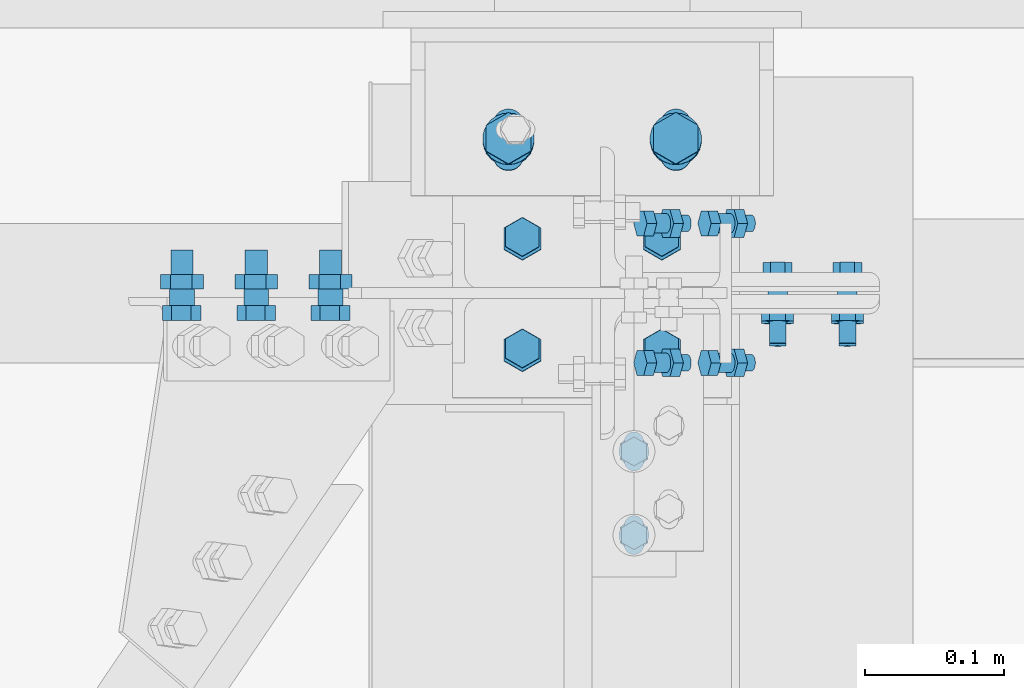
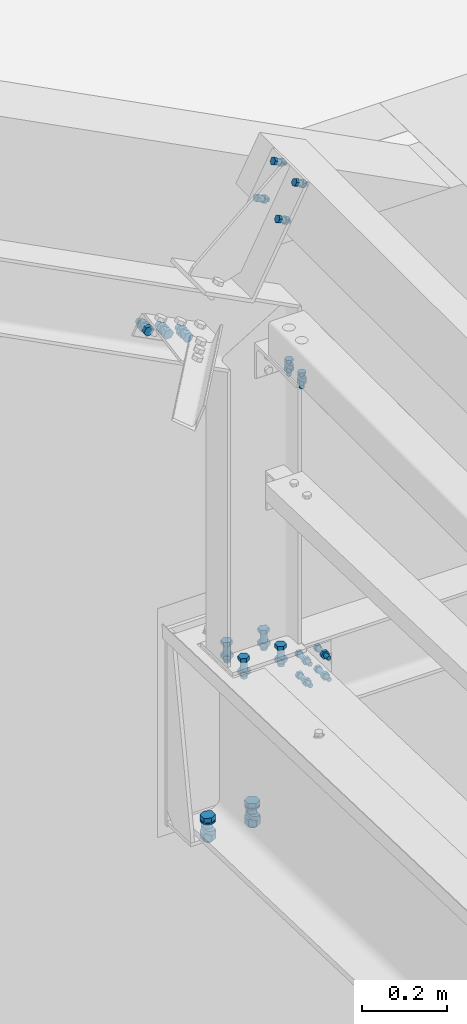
# One storey, part 178 of 362: 6 mechanical fasteners.
"""IFC2X3 building model written with IfcOpenShell, lengths in millimetres."""

import ifcopenshell
import ifcopenshell.guid

model = None  # the IFC model being written
_history = None  # IfcOwnerHistory: only IFC2X3 demands one
_inside = {}  # id of a spatial element -> (the spatial element, [elements in it])
_under = {}  # id of a project, library or spatial element -> (it, [spatial elements below it])
_declared = {}  # id of a project -> (the project, [libraries it declares])
_typed = {}  # id of a type object -> (the type object, [elements of that type])
_made_of = {}  # id of a material, layer set ... -> (it, [elements and type objects made of it])


def new_model(schema):
    """Start an empty IFC model of exactly this schema.

    Asked for "IFC4X3", IfcOpenShell would pick the latest addendum, in which some entities
    have other attributes; the version numbers below select the first issue.
    IFC2X3 requires an IfcOwnerHistory on every rooted entity: one is made here for all.
    """
    global model, _history
    if schema == "IFC4X3":
        model = ifcopenshell.file(schema_version=(4, 3, 0, 0))
    else:
        model = ifcopenshell.file(schema=schema)
    _inside.clear()
    _under.clear()
    _declared.clear()
    _typed.clear()
    _made_of.clear()
    _history = None
    if model.schema == "IFC2X3":
        org = make("IfcOrganization", Name="unknown")
        user = make(
            "IfcPersonAndOrganization",
            ThePerson=make("IfcPerson", FamilyName="unknown"),
            TheOrganization=org,
        )
        app = make(
            "IfcApplication",
            ApplicationDeveloper=org,
            Version="unknown",
            ApplicationFullName="unknown",
            ApplicationIdentifier="unknown",
        )
        _history = make(
            "IfcOwnerHistory",
            OwningUser=user,
            OwningApplication=app,
            ChangeAction="ADDED",
            CreationDate=0,
        )
    return model


def make(cls, **values):
    """One entity of the class cls with the attributes given. An attribute that is None is left unset."""
    return model.create_entity(
        cls, **{name: value for name, value in values.items() if value is not None}
    )


def rooted(cls, **values):
    """An entity with a GlobalId (a new one), such as an element, a storey or a relation."""
    return make(cls, GlobalId=ifcopenshell.guid.new(), OwnerHistory=_history, **values)


def si_unit(unit_type, name, prefix=None):
    """IfcSIUnit, for example si_unit("LENGTHUNIT", "METRE", prefix="MILLI")."""
    return make("IfcSIUnit", UnitType=unit_type, Prefix=prefix, Name=name)


def assignment(units):
    """IfcUnitAssignment: the units of a project."""
    return None if units is None else make("IfcUnitAssignment", Units=units)


def point(xyz):
    """IfcCartesianPoint."""
    return None if xyz is None else make("IfcCartesianPoint", Coordinates=xyz)


def direction(xyz):
    """IfcDirection."""
    return None if xyz is None else make("IfcDirection", DirectionRatios=xyz)


def frame(location, z_axis=None, x_axis=None):
    """IfcAxis2Placement3D, a coordinate frame: its origin and axes. An axis left out is left unset."""
    return make(
        "IfcAxis2Placement3D",
        Location=point(location),
        Axis=direction(z_axis),
        RefDirection=direction(x_axis),
    )


def frame_2d(location, x_axis=None):
    """IfcAxis2Placement2D, a coordinate frame in the plane: its origin and x axis."""
    return make(
        "IfcAxis2Placement2D", Location=point(location), RefDirection=direction(x_axis)
    )


def origin_with_axes():
    """The frame at (0, 0, 0) with the z axis (0, 0, 1) and the x axis (1, 0, 0) written out."""
    return frame((0.0, 0.0, 0.0), z_axis=(0.0, 0.0, 1.0), x_axis=(1.0, 0.0, 0.0))


def origin_2d_with_axis():
    """The frame at (0, 0) in the plane with the x axis (1, 0) written out."""
    return frame_2d((0.0, 0.0), x_axis=(1.0, 0.0))


def place(relative_to, where):
    """IfcLocalPlacement: puts the frame where relative to a parent placement (None: the world)."""
    return make(
        "IfcLocalPlacement", PlacementRelTo=relative_to, RelativePlacement=where
    )


def context(
    kind, dimensions, precision=None, world=None, true_north=None, identifier=None
):
    """IfcGeometricRepresentationContext, for example the 3D "Model" context."""
    return make(
        "IfcGeometricRepresentationContext",
        ContextIdentifier=identifier,
        ContextType=kind,
        CoordinateSpaceDimension=dimensions,
        Precision=precision,
        WorldCoordinateSystem=world,
        TrueNorth=true_north,
    )


def subcontext(parent, identifier, kind, view, scale=None):
    """IfcGeometricRepresentationSubContext, for example "Body" below "Model"."""
    return make(
        "IfcGeometricRepresentationSubContext",
        ContextIdentifier=identifier,
        ContextType=kind,
        ParentContext=parent,
        TargetScale=scale,
        TargetView=view,
    )


def project(units=None, contexts=None):
    """IfcProject with its units and contexts."""
    return rooted(
        "IfcProject",
        Name="project",
        RepresentationContexts=contexts,
        UnitsInContext=assignment(units),
    )


def spatial(cls, under=None, at=None, **own):
    """A site, building, storey or space (cls), placed at a placement, below another one or the project."""
    s = rooted(cls, ObjectPlacement=at, **own)
    if under is not None:
        _under.setdefault(under.id(), (under, []))[1].append(s)
    return s


def polyline(points):
    """IfcPolyline through the points."""
    return make("IfcPolyline", Points=[point(p) for p in points])


def circle_curve(where, radius):
    """IfcCircle in the frame where."""
    return make("IfcCircle", Position=where, Radius=radius)


def parameter(value):
    """IfcParameterValue: where a trimmed curve begins or ends, as a parameter of its basis curve."""
    return model.create_entity("IfcParameterValue", value)


def trimmed(basis, trim1, trim2, sense, master):
    """IfcTrimmedCurve: the piece of a basis curve between two trims."""
    return make(
        "IfcTrimmedCurve",
        BasisCurve=basis,
        Trim1=trim1,
        Trim2=trim2,
        SenseAgreement=sense,
        MasterRepresentation=master,
    )


def segment(curve, same_sense, transition):
    """IfcCompositeCurveSegment."""
    return make(
        "IfcCompositeCurveSegment",
        Transition=transition,
        SameSense=same_sense,
        ParentCurve=curve,
    )


def composite_curve(segments, self_intersect=None):
    """IfcCompositeCurve: segments joined end to end."""
    return make("IfcCompositeCurve", Segments=segments, SelfIntersect=self_intersect)


def profile(cls, at=None, kind="AREA", **sizes):
    """A parametric profile (cls). Its sizes go by their IFC names, for example OverallWidth=200.0."""
    return make(cls, ProfileType=kind, Position=at, **sizes)


def circle(**sizes):
    """IfcCircleProfileDef."""
    return profile("IfcCircleProfileDef", **sizes)


def outline(outer, holes=None, kind="AREA"):
    """IfcArbitraryClosedProfileDef: a profile drawn as a closed curve; with holes, ...WithVoids."""
    if holes is None:
        return make("IfcArbitraryClosedProfileDef", ProfileType=kind, OuterCurve=outer)
    return make(
        "IfcArbitraryProfileDefWithVoids",
        ProfileType=kind,
        OuterCurve=outer,
        InnerCurves=holes,
    )


def extrude(swept, where, along, depth):
    """IfcExtrudedAreaSolid: the profile swept, set in the frame where, extruded along a direction by depth."""
    return make(
        "IfcExtrudedAreaSolid",
        SweptArea=swept,
        Position=where,
        ExtrudedDirection=direction(along),
        Depth=depth,
    )


def shape(context_of_items, identifier, shape_type, items):
    """IfcShapeRepresentation: the items that make up one representation, for example the "Body"."""
    return make(
        "IfcShapeRepresentation",
        ContextOfItems=context_of_items,
        RepresentationIdentifier=identifier,
        RepresentationType=shape_type,
        Items=items,
    )


def source(mapping_origin, context_of_items, identifier, shape_type, items):
    """IfcRepresentationMap: a shape defined once, which mapped items show again and again."""
    return make(
        "IfcRepresentationMap",
        MappingOrigin=mapping_origin,
        MappedRepresentation=shape(context_of_items, identifier, shape_type, items),
    )


def transform(
    local_origin,
    x_axis=None,
    y_axis=None,
    z_axis=None,
    scale=None,
    scale2=None,
    scale3=None,
    uniform=True,
):
    """IfcCartesianTransformationOperator3D, or its non-uniform kind. x_axis, y_axis, z_axis: its Axis1, 2, 3."""
    if uniform:
        return make(
            "IfcCartesianTransformationOperator3D",
            Axis1=direction(x_axis),
            Axis2=direction(y_axis),
            LocalOrigin=point(local_origin),
            Scale=scale,
            Axis3=direction(z_axis),
        )
    return make(
        "IfcCartesianTransformationOperator3DnonUniform",
        Axis1=direction(x_axis),
        Axis2=direction(y_axis),
        LocalOrigin=point(local_origin),
        Scale=scale,
        Axis3=direction(z_axis),
        Scale2=scale2,
        Scale3=scale3,
    )


def mapped(mapping_source, mapping_target):
    """IfcMappedItem: shows the shape of a source again, moved by a transform."""
    return make(
        "IfcMappedItem", MappingSource=mapping_source, MappingTarget=mapping_target
    )


def material(Name=None, Category=None):
    """IfcMaterial."""
    return make("IfcMaterial", Name=Name, Category=Category)


def made_of(thing, what):
    """Note that an element or type object is made of a material, layer set ...; save() writes the relation."""
    if what is not None:
        _made_of.setdefault(what.id(), (what, []))[1].append(thing)
    return thing


def type_object(cls, material=None, **own):
    """A type object (cls), such as IfcWallType, which elements share."""
    return made_of(rooted(cls, **own), material)


def element(
    cls,
    number,
    at=None,
    inside=None,
    cuts=None,
    type_object=None,
    material=None,
    context=None,
    identifier="Body",
    shape_type=None,
    held_by="IfcProductDefinitionShape",
    body=None,
    shapes=None,
    **own,
):
    """One element of the class cls, such as IfcWall. Its Tag is "e" and its number.

    at: its placement. inside: the storey or other place that contains it. cuts: it is an
    opening in that element (IfcRelVoidsElement). A single representation is given by context,
    identifier, shape_type and body (its items); several are given by shapes. held_by: the class
    of the entity that holds the representations. save() writes the other relations.
    """
    e = rooted(cls, Tag="e%d" % number, ObjectPlacement=at, **own)
    if body is not None:
        shapes = [shape(context, identifier, shape_type, body)]
    if shapes is not None:
        e.Representation = make(held_by, Representations=shapes)
    if inside is not None:
        _inside.setdefault(inside.id(), (inside, []))[1].append(e)
    if cuts is not None:
        rooted(
            "IfcRelVoidsElement", RelatingBuildingElement=cuts, RelatedOpeningElement=e
        )
    if type_object is not None:
        _typed.setdefault(type_object.id(), (type_object, []))[1].append(e)
    return made_of(e, material)


def aggregate(whole, parts):
    """IfcRelAggregates: a whole, such as a stair, and the parts it consists of."""
    return rooted("IfcRelAggregates", RelatingObject=whole, RelatedObjects=parts)


def save(model, path):
    """Write the relations noted so far, then the file.

    IfcRelAggregates (storeys below a building ...), IfcRelContainedInSpatialStructure (elements
    in a storey), IfcRelDefinesByType, IfcRelAssociatesMaterial and IfcRelDeclares: one each for
    every whole, place, type object, material and project.
    """
    for whole, parts in _under.values():
        aggregate(whole, parts)
    for where, things in _inside.values():
        rooted(
            "IfcRelContainedInSpatialStructure",
            RelatedElements=things,
            RelatingStructure=where,
        )
    for kind, things in _typed.values():
        rooted("IfcRelDefinesByType", RelatedObjects=things, RelatingType=kind)
    for what, things in _made_of.values():
        rooted("IfcRelAssociatesMaterial", RelatedObjects=things, RelatingMaterial=what)
    for by, libraries in _declared.values():
        rooted("IfcRelDeclares", RelatingContext=by, RelatedDefinitions=libraries)
    model.write(path)


model = new_model("IFC2X3")

# Units and contexts
model_context = context("Model", 3, precision=1e-05, world=origin_with_axes())
body_context = subcontext(model_context, "Body", "Model", "MODEL_VIEW")
ifc_project = project(units=[si_unit("LENGTHUNIT", "METRE", prefix="MILLI"), si_unit("AREAUNIT", "SQUARE_METRE"), si_unit("VOLUMEUNIT", "CUBIC_METRE"), si_unit("MASSUNIT", "GRAM", prefix="KILO"), si_unit("TIMEUNIT", "SECOND"), si_unit("PLANEANGLEUNIT", "RADIAN"), si_unit("SOLIDANGLEUNIT", "STERADIAN"), si_unit("THERMODYNAMICTEMPERATUREUNIT", "DEGREE_CELSIUS"), si_unit("LUMINOUSINTENSITYUNIT", "LUMEN")], contexts=[model_context])

# Site, building, storey
site_placement = place(None, origin_with_axes())
site = spatial("IfcSite", under=ifc_project, at=site_placement, Name="Undefined", CompositionType="ELEMENT")
building_placement = place(site_placement, origin_with_axes())
building = spatial("IfcBuilding", under=site, at=building_placement, Name="Undefined", CompositionType="ELEMENT")
storey_placement = place(building_placement, origin_with_axes())
storey = spatial("IfcBuildingStorey", under=building, at=storey_placement, Name="Undefined", CompositionType="ELEMENT", Elevation=0.0)

# Mechanical fasteners
ifc_material_1 = material(Name="8.8-SB-ZINGUE")
mechanical_fastener_type = type_object("IfcMechanicalFastenerType", Name="Bolt assembly")
shared_shape_1 = source(origin_with_axes(), body_context, "Body", "SweptSolid", [
    extrude(circle(Radius=7.0, at=origin_2d_with_axis()), frame((0.0, -0.10007666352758, 0.0), z_axis=(0.0, 1.0, 0.0), x_axis=(1.0, 0.0, 0.0)), (0.0, 0.0, 1.0), 3.1),
    extrude(circle(Radius=7.0, at=origin_2d_with_axis()), frame((0.0, -9.9, 0.0), z_axis=(0.0, 1.0, 0.0), x_axis=(1.0, 0.0, 0.0)), (0.0, 0.0, 1.0), 10.0),
    extrude(outline(polyline([(10.39230484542, 0.0), (5.19615242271, 9.00000000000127), (-5.19615242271, 9.00000000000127), (-10.39230484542, 0.0), (-5.19615242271, -9.00000000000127), (5.19615242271, -9.00000000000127), (10.39230484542, 0.0)])), frame((0.0, -17.92, 0.0), z_axis=(0.0, 1.0, 0.0), x_axis=(1.0, 0.0, 0.0)), (0.0, 0.0, 1.0), 7.92),
    extrude(circle(Radius=6.0, at=origin_2d_with_axis()), frame((0.0, -10.0000010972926, 0.0), z_axis=(0.0, 1.0, 0.0), x_axis=(1.0, 0.0, 0.0)), (0.0, 0.0, 1.0), 30.0),
    extrude(outline(polyline([(11.5008173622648, 0.0), (5.7504086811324, 9.96000000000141), (-5.7504086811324, 9.96000000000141), (-11.5008173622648, 0.0), (-5.7504086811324, -9.96000000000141), (5.7504086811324, -9.96000000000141), (11.5008173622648, 0.0)])), frame((0.0, 2.99993177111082, 0.0), z_axis=(0.0, 1.0, 0.0), x_axis=(1.0, 0.0, 0.0)), (0.0, 0.0, 1.0), 7.92),
])
mechanical_fastener_1_placement = place(storey_placement, frame((28930.4869602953, 15200.0000596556, 8812.17853882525), z_axis=(0.0, 1.0, 0.0), x_axis=(0.460093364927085, 0.0, 0.887870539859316)))
element("IfcMechanicalFastener", 1, at=mechanical_fastener_1_placement, inside=storey, type_object=mechanical_fastener_type, material=ifc_material_1, Name="Bolt assembly", NominalDiameter=12.0, NominalLength=30.0, context=body_context, shape_type="MappedRepresentation", body=[
    mapped(shared_shape_1, transform((0.0, 0.0, -50.0))),
    mapped(shared_shape_1, transform((100.0, 0.0, -50.0))),
    mapped(shared_shape_1, transform((0.0, 0.0, 50.0))),
    mapped(shared_shape_1, transform((100.0, 0.0, 50.0))),
])
ifc_material_2 = material(Name="#_SB-8.8-ZINGUE")
shared_shape_2 = source(origin_with_axes(), body_context, "Body", "SweptSolid", [
    extrude(circle(Radius=9.0, at=origin_2d_with_axis()), frame((0.0, -2.90024280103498, 0.0), z_axis=(0.0, 1.0, 0.0), x_axis=(1.0, 0.0, 0.0)), (0.0, 0.0, 1.0), 5.7),
    extrude(circle(Radius=9.0, at=origin_2d_with_axis()), frame((0.0, -8.89990143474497, 0.0), z_axis=(0.0, 1.0, 0.0), x_axis=(1.0, 0.0, 0.0)), (0.0, 0.0, 1.0), 6.0),
    extrude(outline(polyline([(13.85640646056, 0.0), (6.92820323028, 12.0000000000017), (-6.92820323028, 12.0000000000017), (-13.85640646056, 0.0), (-6.92820323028, -12.0000000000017), (6.92820323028, -12.0000000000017), (13.85640646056, 0.0)])), frame((0.0, -19.559901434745, 0.0), z_axis=(0.0, 1.0, 0.0), x_axis=(1.0, 0.0, 0.0)), (0.0, 0.0, 1.0), 10.56),
    extrude(circle(Radius=8.0, at=origin_2d_with_axis()), frame((0.0, -8.99990143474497, 0.0), z_axis=(0.0, 1.0, 0.0), x_axis=(1.0, 0.0, 0.0)), (0.0, 0.0, 1.0), 40.0),
    extrude(outline(polyline([(15.3344231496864, 0.0), (7.6672115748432, 13.2800000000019), (-7.6672115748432, 13.2800000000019), (-15.3344231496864, 0.0), (-7.6672115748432, -13.2800000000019), (7.6672115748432, -13.2800000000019), (15.3344231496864, 0.0)])), frame((0.0, 2.79975710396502, 0.0), z_axis=(0.0, 1.0, 0.0), x_axis=(1.0, 0.0, 0.0)), (0.0, 0.0, 1.0), 10.56),
])
mechanical_fastener_2_placement = place(storey_placement, frame((28639.1751648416, 15200.0002428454, 8567.80792295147), z_axis=(-0.887870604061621, -1.29999898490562e-08, 0.460093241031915), x_axis=(0.460093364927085, 0.0, 0.887870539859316)))
element("IfcMechanicalFastener", 2, at=mechanical_fastener_2_placement, inside=storey, type_object=mechanical_fastener_type, material=ifc_material_2, Name="Bolt assembly", NominalDiameter=16.0, NominalLength=40.0, context=body_context, shape_type="MappedRepresentation", body=[
    mapped(shared_shape_2, transform((0.0, 0.0, -60.0))),
    mapped(shared_shape_2, transform((0.0, 0.0, 0.0))),
    mapped(shared_shape_2, transform((0.0, 0.0, 60.0))),
])
shared_shape_3 = source(origin_with_axes(), body_context, "Body", "SweptSolid", [
    extrude(circle(Radius=7.0, at=origin_2d_with_axis()), frame((0.0, -3.89999843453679, 0.0), z_axis=(0.0, 1.0, 0.0), x_axis=(1.0, 0.0, 0.0)), (0.0, 0.0, 1.0), 4.0),
    extrude(outline(composite_curve([segment(polyline([(-7.0, 7.0), (7.0, 7.0)]), True, "CONTINUOUS"), segment(trimmed(circle_curve(frame_2d((7.0, 0.0), x_axis=(0.0, 1.0)), 7.0), [parameter(0.0)], [parameter(3.14159265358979)], False, "PARAMETER"), True, "CONTINUOUS"), segment(polyline([(7.0, -7.0), (-7.0, -7.0)]), True, "CONTINUOUS"), segment(trimmed(circle_curve(frame_2d((-7.0, 0.0), x_axis=(0.0, -1.0)), 7.0), [parameter(0.0)], [parameter(3.14159265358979)], False, "PARAMETER"), True, "DISCONTINUOUS")], self_intersect=False)), frame((0.0, -0.100011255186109, 0.0), z_axis=(0.0, 1.0, 0.0), x_axis=(1.0, 0.0, 0.0)), (0.0, 0.0, 1.0), 10.1),
    extrude(outline(polyline([(10.39230484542, 0.0), (5.19615242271, 9.00000000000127), (-5.19615242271, 9.00000000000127), (-10.39230484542, 0.0), (-5.19615242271, -9.00000000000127), (5.19615242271, -9.00000000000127), (10.39230484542, 0.0)])), frame((0.0, -11.9199984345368, 0.0), z_axis=(0.0, 1.0, 0.0), x_axis=(1.0, 0.0, 0.0)), (0.0, 0.0, 1.0), 7.92),
    extrude(circle(Radius=6.0, at=origin_2d_with_axis()), frame((0.0, -3.99999923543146, 0.0), z_axis=(0.0, 1.0, 0.0), x_axis=(1.0, 0.0, 0.0)), (0.0, 0.0, 1.0), 40.0),
    extrude(circle(Radius=10.8, at=origin_2d_with_axis()), frame((0.0, 10.0000000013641, 0.0), z_axis=(0.0, 1.0, 0.0), x_axis=(1.0, 0.0, 0.0)), (0.0, 0.0, 1.0), 3.96),
    extrude(outline(polyline([(11.5008173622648, 0.0), (5.7504086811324, 9.96000000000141), (-5.7504086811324, 9.96000000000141), (-11.5008173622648, 0.0), (-5.7504086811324, -9.96000000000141), (5.7504086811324, -9.96000000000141), (11.5008173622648, 0.0)])), frame((0.0, 13.96, 0.0), z_axis=(0.0, 1.0, 0.0), x_axis=(1.0, 0.0, 0.0)), (0.0, 0.0, 1.0), 7.92),
])
mechanical_fastener_3_placement = place(storey_placement, frame((28910.0, 15026.5, 8450.0), z_axis=(-1.0, 0.0, 0.0), x_axis=(0.0, 1.0, 0.0)))
element("IfcMechanicalFastener", 3, at=mechanical_fastener_3_placement, inside=storey, type_object=mechanical_fastener_type, material=ifc_material_1, Name="Bolt assembly", NominalDiameter=12.0, NominalLength=40.0, context=body_context, shape_type="MappedRepresentation", body=[
    mapped(shared_shape_3, transform((0.0, 0.0, 0.0))),
    mapped(shared_shape_3, transform((60.0, 0.0, 0.0))),
])
shared_shape_4 = source(origin_with_axes(), body_context, "Body", "SweptSolid", [
    extrude(circle(Radius=9.0, at=origin_2d_with_axis()), frame((0.0, -0.100011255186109, 0.0), z_axis=(0.0, 1.0, 0.0), x_axis=(1.0, 0.0, 0.0)), (0.0, 0.0, 1.0), 17.3),
    extrude(circle(Radius=9.0, at=origin_2d_with_axis()), frame((0.0, -9.9, 0.0), z_axis=(0.0, 1.0, 0.0), x_axis=(1.0, 0.0, 0.0)), (0.0, 0.0, 1.0), 10.0),
    extrude(outline(polyline([(13.85640646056, 0.0), (6.92820323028, 12.0000000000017), (-6.92820323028, 12.0000000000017), (-13.85640646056, 0.0), (-6.92820323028, -12.0000000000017), (6.92820323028, -12.0000000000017), (13.85640646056, 0.0)])), frame((0.0, -20.5600000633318, 0.0), z_axis=(0.0, 1.0, 0.0), x_axis=(1.0, 0.0, 0.0)), (0.0, 0.0, 1.0), 10.56),
    extrude(circle(Radius=8.0, at=origin_2d_with_axis()), frame((0.0, -10.0000010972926, 0.0), z_axis=(0.0, 1.0, 0.0), x_axis=(1.0, 0.0, 0.0)), (0.0, 0.0, 1.0), 50.0),
    extrude(outline(polyline([(15.3344231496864, 0.0), (7.6672115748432, 13.2800000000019), (-7.6672115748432, 13.2800000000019), (-15.3344231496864, 0.0), (-7.6672115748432, -13.2800000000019), (7.6672115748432, -13.2800000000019), (15.3344231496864, 0.0)])), frame((0.0, 17.2000007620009, 0.0), z_axis=(0.0, 1.0, 0.0), x_axis=(1.0, 0.0, 0.0)), (0.0, 0.0, 1.0), 10.56),
])
mechanical_fastener_4_placement = place(storey_placement, frame((28880.0, 15159.7053134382, 7573.58709801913), z_axis=(-1.0, 0.0, 0.0), x_axis=(3.14103090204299e-11, 0.999506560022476, -0.0314107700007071)))
element("IfcMechanicalFastener", 4, at=mechanical_fastener_4_placement, inside=storey, type_object=mechanical_fastener_type, material=ifc_material_1, Name="Bolt assembly", NominalDiameter=16.0, NominalLength=50.0, context=body_context, shape_type="MappedRepresentation", body=[
    mapped(shared_shape_4, transform((0.0, 0.0, -50.0))),
    mapped(shared_shape_4, transform((79.9999999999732, 9.09494701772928e-13, -50.0))),
    mapped(shared_shape_4, transform((0.0, 0.0, 50.0))),
    mapped(shared_shape_4, transform((79.9999999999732, 9.09494701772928e-13, 50.0))),
])
shared_shape_5 = source(origin_with_axes(), body_context, "Body", "SweptSolid", [
    extrude(circle(Radius=7.0, at=origin_2d_with_axis()), frame((0.0, -2.7999999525, 0.0), z_axis=(0.0, 1.0, 0.0), x_axis=(1.0, 0.0, 0.0)), (0.0, 0.0, 1.0), 5.6),
    extrude(circle(Radius=7.0, at=origin_2d_with_axis()), frame((0.0, 2.90038411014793, 0.0), z_axis=(0.0, 1.0, 0.0), x_axis=(1.0, 0.0, 0.0)), (0.0, 0.0, 1.0), 10.1),
    extrude(circle(Radius=7.0, at=origin_2d_with_axis()), frame((0.0, -12.9004311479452, 0.0), z_axis=(0.0, 1.0, 0.0), x_axis=(1.0, 0.0, 0.0)), (0.0, 0.0, 1.0), 10.0),
    extrude(outline(polyline([(10.39230484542, 0.0), (5.19615242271, 9.00000000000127), (-5.19615242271, 9.00000000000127), (-10.39230484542, 0.0), (-5.19615242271, -9.00000000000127), (5.19615242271, -9.00000000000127), (10.39230484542, 0.0)])), frame((0.0, -20.9204311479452, 0.0), z_axis=(0.0, 1.0, 0.0), x_axis=(1.0, 0.0, 0.0)), (0.0, 0.0, 1.0), 7.92),
    extrude(circle(Radius=6.0, at=origin_2d_with_axis()), frame((0.0, -13.0004311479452, 0.0), z_axis=(0.0, 1.0, 0.0), x_axis=(1.0, 0.0, 0.0)), (0.0, 0.0, 1.0), 50.0),
    extrude(outline(polyline([(11.5008173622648, 0.0), (5.7504086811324, 9.96000000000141), (-5.7504086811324, 9.96000000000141), (-11.5008173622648, 0.0), (-5.7504086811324, -9.96000000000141), (5.7504086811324, -9.96000000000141), (11.5008173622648, 0.0)])), frame((0.0, 13.0004311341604, 0.0), z_axis=(0.0, 1.0, 0.0), x_axis=(1.0, 0.0, 0.0)), (0.0, 0.0, 1.0), 7.92),
])
mechanical_fastener_5_placement = place(storey_placement, frame((29063.0, 15200.0000165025, 7472.27184112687), z_axis=(7.58071938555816e-11, 0.0314107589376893, 0.999506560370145), x_axis=(-1.0, 0.0, 0.0)))
element("IfcMechanicalFastener", 5, at=mechanical_fastener_5_placement, inside=storey, type_object=mechanical_fastener_type, material=ifc_material_1, Name="Bolt assembly", NominalDiameter=12.0, NominalLength=50.0, context=body_context, shape_type="MappedRepresentation", body=[
    mapped(shared_shape_5, transform((0.0, 0.0, -30.0))),
    mapped(shared_shape_5, transform((49.9999999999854, 1.98269844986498e-10, -29.9999999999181))),
    mapped(shared_shape_5, transform((0.0, 0.0, 30.0))),
    mapped(shared_shape_5, transform((50.0000000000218, 1.44154910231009e-10, 30.0000000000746))),
])
ifc_material_3 = material(Name="HR10.9")
shared_shape_6 = source(origin_with_axes(), body_context, "Body", "SweptSolid", [
    extrude(circle(Radius=11.0, at=origin_2d_with_axis()), frame((0.0, -17.1000007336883, 0.0), z_axis=(0.0, 1.0, 0.0), x_axis=(1.0, 0.0, 0.0)), (0.0, 0.0, 1.0), 17.2),
    extrude(outline(composite_curve([segment(polyline([(-11.0, 11.0), (11.0, 11.0)]), True, "CONTINUOUS"), segment(trimmed(circle_curve(frame_2d((11.0, 0.0), x_axis=(0.0, 1.0)), 11.0), [parameter(0.0)], [parameter(3.14159265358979)], False, "PARAMETER"), True, "CONTINUOUS"), segment(polyline([(11.0, -11.0), (-11.0, -11.0)]), True, "CONTINUOUS"), segment(trimmed(circle_curve(frame_2d((-11.0, 0.0), x_axis=(0.0, -1.0)), 11.0), [parameter(0.0)], [parameter(3.14159265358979)], False, "PARAMETER"), True, "DISCONTINUOUS")], self_intersect=False)), frame((0.0, -0.100011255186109, 0.0), z_axis=(0.0, 1.0, 0.0), x_axis=(1.0, 0.0, 0.0)), (0.0, 0.0, 1.0), 10.1),
    extrude(outline(polyline([(18.47520861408, 0.0), (9.23760430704, 16.0000000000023), (-9.23760430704, 16.0000000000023), (-18.47520861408, 0.0), (-9.23760430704, -16.0000000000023), (9.23760430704, -16.0000000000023), (18.47520861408, 0.0)])), frame((0.0, -34.2000007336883, 0.0), z_axis=(0.0, 1.0, 0.0), x_axis=(1.0, 0.0, 0.0)), (0.0, 0.0, 1.0), 13.0),
    extrude(circle(Radius=10.0, at=origin_2d_with_axis()), frame((0.0, -21.2000007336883, 0.0), z_axis=(0.0, 1.0, 0.0), x_axis=(1.0, 0.0, 0.0)), (0.0, 0.0, 1.0), 60.0),
    extrude(circle(Radius=18.5, at=origin_2d_with_axis()), frame((0.0, -21.2000007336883, 0.0), z_axis=(0.0, 1.0, 0.0), x_axis=(1.0, 0.0, 0.0)), (0.0, 0.0, 1.0), 4.0),
    extrude(circle(Radius=18.5, at=origin_2d_with_axis()), frame((0.0, 10.0000000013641, 0.0), z_axis=(0.0, 1.0, 0.0), x_axis=(1.0, 0.0, 0.0)), (0.0, 0.0, 1.0), 4.0),
    extrude(outline(polyline([(18.47520861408, 0.0), (9.23760430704, 16.0000000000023), (-9.23760430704, 16.0000000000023), (-18.47520861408, 0.0), (-9.23760430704, -16.0000000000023), (9.23760430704, -16.0000000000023), (18.47520861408, 0.0)])), frame((0.0, 13.9999928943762, 0.0), z_axis=(0.0, 1.0, 0.0), x_axis=(1.0, 0.0, 0.0)), (0.0, 0.0, 1.0), 18.0),
])
mechanical_fastener_6_placement = place(storey_placement, frame((28879.9999999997, 15310.0223558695, 7018.59163958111), z_axis=(-1.0, 0.0, 0.0), x_axis=(3.14103090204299e-11, 0.999506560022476, -0.0314107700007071)))
element("IfcMechanicalFastener", 6, at=mechanical_fastener_6_placement, inside=storey, type_object=mechanical_fastener_type, material=ifc_material_3, Name="Bolt assembly", NominalDiameter=20.0, NominalLength=60.0, context=body_context, shape_type="MappedRepresentation", body=[
    mapped(shared_shape_6, transform((0.0, 0.0, -60.0))),
    mapped(shared_shape_6, transform((0.0, 0.0, 60.0))),
])

save(model, "model.ifc")
